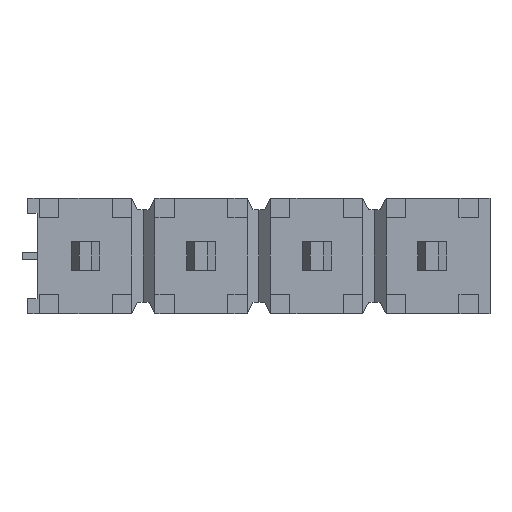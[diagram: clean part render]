
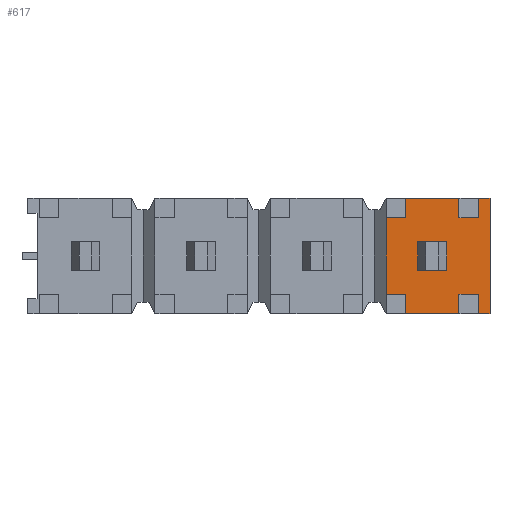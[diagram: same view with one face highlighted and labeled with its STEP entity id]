
A CAD part, front view. The second image highlights one B-rep face of the part: STEP entity #617.
In plain terms, the highlighted planar face has unit normal (0, -1, 0).
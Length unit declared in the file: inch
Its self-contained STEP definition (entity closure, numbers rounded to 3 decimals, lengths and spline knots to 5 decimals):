
#617 = ADVANCED_FACE( '', ( #1249, #1250 ), #1251, .T. );
#1249 = FACE_OUTER_BOUND( '', #1901, .T. );
#1250 = FACE_BOUND( '', #1902, .T. );
#1251 = PLANE( '', #1903 );
#1901 = EDGE_LOOP( '', ( #3571, #3572, #3573, #3574, #3575, #3576, #3577, #3578, #3579, #3580, #3581, #3582, #3583, #3584, #3585, #3586 ) );
#1902 = EDGE_LOOP( '', ( #3587, #3588, #3589, #3590 ) );
#1903 = AXIS2_PLACEMENT_3D( '', #3591, #3592, #3593 );
#3571 = ORIENTED_EDGE( '', *, *, #4415, .T. );
#3572 = ORIENTED_EDGE( '', *, *, #4543, .T. );
#3573 = ORIENTED_EDGE( '', *, *, #4460, .T. );
#3574 = ORIENTED_EDGE( '', *, *, #4306, .T. );
#3575 = ORIENTED_EDGE( '', *, *, #4142, .F. );
#3576 = ORIENTED_EDGE( '', *, *, #4542, .T. );
#3577 = ORIENTED_EDGE( '', *, *, #4589, .T. );
#3578 = ORIENTED_EDGE( '', *, *, #4590, .T. );
#3579 = ORIENTED_EDGE( '', *, *, #4304, .F. );
#3580 = ORIENTED_EDGE( '', *, *, #4504, .F. );
#3581 = ORIENTED_EDGE( '', *, *, #4118, .T. );
#3582 = ORIENTED_EDGE( '', *, *, #4554, .T. );
#3583 = ORIENTED_EDGE( '', *, *, #4467, .F. );
#3584 = ORIENTED_EDGE( '', *, *, #4263, .F. );
#3585 = ORIENTED_EDGE( '', *, *, #4486, .T. );
#3586 = ORIENTED_EDGE( '', *, *, #4553, .T. );
#3587 = ORIENTED_EDGE( '', *, *, #4038, .F. );
#3588 = ORIENTED_EDGE( '', *, *, #3935, .F. );
#3589 = ORIENTED_EDGE( '', *, *, #4084, .F. );
#3590 = ORIENTED_EDGE( '', *, *, #4567, .F. );
#3591 = CARTESIAN_POINT( '', ( 0.23637, 0.02, 0.1 ) );
#3592 = DIRECTION( '', ( 0., -1., 0. ) );
#3593 = DIRECTION( '', ( 0., 0., -1. ) );
#3935 = EDGE_CURVE( '', #4700, #4702, #4703, .T. );
#4038 = EDGE_CURVE( '', #4702, #4880, #4881, .T. );
#4084 = EDGE_CURVE( '', #4955, #4700, #4957, .T. );
#4118 = EDGE_CURVE( '', #5009, #5010, #5011, .T. );
#4142 = EDGE_CURVE( '', #5046, #5047, #5048, .T. );
#4263 = EDGE_CURVE( '', #5234, #5235, #5236, .T. );
#4304 = EDGE_CURVE( '', #5294, #5292, #5296, .T. );
#4306 = EDGE_CURVE( '', #5298, #5047, #5299, .T. );
#4415 = EDGE_CURVE( '', #5449, #5450, #5451, .T. );
#4460 = EDGE_CURVE( '', #5507, #5298, #5508, .T. );
#4467 = EDGE_CURVE( '', #5235, #5517, #5518, .T. );
#4486 = EDGE_CURVE( '', #5234, #5543, #5544, .T. );
#4504 = EDGE_CURVE( '', #5009, #5294, #5564, .T. );
#4542 = EDGE_CURVE( '', #5046, #5606, #5608, .T. );
#4543 = EDGE_CURVE( '', #5450, #5507, #5609, .T. );
#4553 = EDGE_CURVE( '', #5543, #5449, #5620, .T. );
#4554 = EDGE_CURVE( '', #5010, #5517, #5621, .T. );
#4567 = EDGE_CURVE( '', #4880, #4955, #5635, .T. );
#4589 = EDGE_CURVE( '', #5606, #5657, #5658, .T. );
#4590 = EDGE_CURVE( '', #5657, #5292, #5659, .T. );
#4700 = VERTEX_POINT( '', #5801 );
#4702 = VERTEX_POINT( '', #5804 );
#4703 = LINE( '', #5805, #5806 );
#4880 = VERTEX_POINT( '', #6065 );
#4881 = LINE( '', #6066, #6067 );
#4955 = VERTEX_POINT( '', #6177 );
#4957 = LINE( '', #6180, #6181 );
#5009 = VERTEX_POINT( '', #6258 );
#5010 = VERTEX_POINT( '', #6259 );
#5011 = LINE( '', #6260, #6261 );
#5046 = VERTEX_POINT( '', #6314 );
#5047 = VERTEX_POINT( '', #6315 );
#5048 = LINE( '', #6316, #6317 );
#5234 = VERTEX_POINT( '', #6595 );
#5235 = VERTEX_POINT( '', #6596 );
#5236 = LINE( '', #6597, #6598 );
#5292 = VERTEX_POINT( '', #6684 );
#5294 = VERTEX_POINT( '', #6687 );
#5296 = LINE( '', #6690, #6691 );
#5298 = VERTEX_POINT( '', #6693 );
#5299 = LINE( '', #6694, #6695 );
#5449 = VERTEX_POINT( '', #6922 );
#5450 = VERTEX_POINT( '', #6923 );
#5451 = LINE( '', #6924, #6925 );
#5507 = VERTEX_POINT( '', #7011 );
#5508 = LINE( '', #7012, #7013 );
#5517 = VERTEX_POINT( '', #7026 );
#5518 = LINE( '', #7027, #7028 );
#5543 = VERTEX_POINT( '', #7067 );
#5544 = LINE( '', #7068, #7069 );
#5564 = LINE( '', #7101, #7102 );
#5606 = VERTEX_POINT( '', #7168 );
#5608 = LINE( '', #7171, #7172 );
#5609 = LINE( '', #7173, #7174 );
#5620 = LINE( '', #7191, #7192 );
#5621 = LINE( '', #7193, #7194 );
#5635 = LINE( '', #7214, #7215 );
#5657 = VERTEX_POINT( '', #7243 );
#5658 = LINE( '', #7244, #7245 );
#5659 = LINE( '', #7246, #7247 );
#5801 = CARTESIAN_POINT( '', ( 0.1625, 0.02, 0.0125 ) );
#5804 = CARTESIAN_POINT( '', ( 0.1375, 0.02, 0.0125 ) );
#5805 = CARTESIAN_POINT( '', ( 0.1375, 0.02, 0.0125 ) );
#5806 = VECTOR( '', #7345, 39.37008 );
#6065 = CARTESIAN_POINT( '', ( 0.1375, 0.02, -0.0125 ) );
#6066 = CARTESIAN_POINT( '', ( 0.1375, 0.02, -0.0125 ) );
#6067 = VECTOR( '', #7428, 39.37008 );
#6177 = CARTESIAN_POINT( '', ( 0.1625, 0.02, -0.0125 ) );
#6180 = CARTESIAN_POINT( '', ( 0.1625, 0.02, 0.0125 ) );
#6181 = VECTOR( '', #7466, 39.37008 );
#6258 = CARTESIAN_POINT( '', ( 0.12688, 0.02, -0.033 ) );
#6259 = CARTESIAN_POINT( '', ( 0.12688, 0.02, -0.05 ) );
#6260 = CARTESIAN_POINT( '', ( 0.12688, 0.02, 0.1 ) );
#6261 = VECTOR( '', #7492, 39.37008 );
#6314 = CARTESIAN_POINT( '', ( 0.17312, 0.02, 0.05 ) );
#6315 = CARTESIAN_POINT( '', ( 0.17312, 0.02, 0.033 ) );
#6316 = CARTESIAN_POINT( '', ( 0.17312, 0.02, 0.1 ) );
#6317 = VECTOR( '', #7511, 39.37008 );
#6595 = CARTESIAN_POINT( '', ( 0.19012, 0.02, -0.033 ) );
#6596 = CARTESIAN_POINT( '', ( 0.17312, 0.02, -0.033 ) );
#6597 = CARTESIAN_POINT( '', ( 0.4, 0.02, -0.033 ) );
#6598 = VECTOR( '', #7604, 39.37008 );
#6684 = CARTESIAN_POINT( '', ( 0.11, 0.02, 0.033 ) );
#6687 = CARTESIAN_POINT( '', ( 0.11, 0.02, -0.033 ) );
#6690 = CARTESIAN_POINT( '', ( 0.11, 0.02, 0.4 ) );
#6691 = VECTOR( '', #7637, 39.37008 );
#6693 = CARTESIAN_POINT( '', ( 0.19012, 0.02, 0.033 ) );
#6694 = CARTESIAN_POINT( '', ( 0.4, 0.02, 0.033 ) );
#6695 = VECTOR( '', #7638, 39.37008 );
#6922 = CARTESIAN_POINT( '', ( 0.2, 0.02, -0.05 ) );
#6923 = CARTESIAN_POINT( '', ( 0.2, 0.02, 0.05 ) );
#6924 = CARTESIAN_POINT( '', ( 0.2, 0.02, 0.05 ) );
#6925 = VECTOR( '', #7716, 39.37008 );
#7011 = CARTESIAN_POINT( '', ( 0.19012, 0.02, 0.05 ) );
#7012 = CARTESIAN_POINT( '', ( 0.19012, 0.02, 0.1 ) );
#7013 = VECTOR( '', #7747, 39.37008 );
#7026 = CARTESIAN_POINT( '', ( 0.17312, 0.02, -0.05 ) );
#7027 = CARTESIAN_POINT( '', ( 0.17312, 0.02, 0.1 ) );
#7028 = VECTOR( '', #7752, 39.37008 );
#7067 = CARTESIAN_POINT( '', ( 0.19012, 0.02, -0.05 ) );
#7068 = CARTESIAN_POINT( '', ( 0.19012, 0.02, 0.1 ) );
#7069 = VECTOR( '', #7767, 39.37008 );
#7101 = CARTESIAN_POINT( '', ( 0.4, 0.02, -0.033 ) );
#7102 = VECTOR( '', #7780, 39.37008 );
#7168 = CARTESIAN_POINT( '', ( 0.12688, 0.02, 0.05 ) );
#7171 = CARTESIAN_POINT( '', ( -0.2, 0.02, 0.05 ) );
#7172 = VECTOR( '', #7806, 39.37008 );
#7173 = CARTESIAN_POINT( '', ( -0.2, 0.02, 0.05 ) );
#7174 = VECTOR( '', #7807, 39.37008 );
#7191 = CARTESIAN_POINT( '', ( 0.2, 0.02, -0.05 ) );
#7192 = VECTOR( '', #7814, 39.37008 );
#7193 = CARTESIAN_POINT( '', ( 0.2, 0.02, -0.05 ) );
#7194 = VECTOR( '', #7815, 39.37008 );
#7214 = CARTESIAN_POINT( '', ( 0.1625, 0.02, -0.0125 ) );
#7215 = VECTOR( '', #7822, 39.37008 );
#7243 = CARTESIAN_POINT( '', ( 0.12688, 0.02, 0.033 ) );
#7244 = CARTESIAN_POINT( '', ( 0.12688, 0.02, 0.1 ) );
#7245 = VECTOR( '', #7829, 39.37008 );
#7246 = CARTESIAN_POINT( '', ( 0.4, 0.02, 0.033 ) );
#7247 = VECTOR( '', #7830, 39.37008 );
#7345 = DIRECTION( '', ( -1., 0., 0. ) );
#7428 = DIRECTION( '', ( 0., 0., -1. ) );
#7466 = DIRECTION( '', ( 0., 0., 1. ) );
#7492 = DIRECTION( '', ( 0., 0., -1. ) );
#7511 = DIRECTION( '', ( 0., 0., -1. ) );
#7604 = DIRECTION( '', ( -1., 0., 0. ) );
#7637 = DIRECTION( '', ( 0., 0., 1. ) );
#7638 = DIRECTION( '', ( -1., 0., 0. ) );
#7716 = DIRECTION( '', ( 0., 0., 1. ) );
#7747 = DIRECTION( '', ( 0., 0., -1. ) );
#7752 = DIRECTION( '', ( 0., 0., -1. ) );
#7767 = DIRECTION( '', ( 0., 0., -1. ) );
#7780 = DIRECTION( '', ( -1., 0., 0. ) );
#7806 = DIRECTION( '', ( -1., 0., 0. ) );
#7807 = DIRECTION( '', ( -1., 0., 0. ) );
#7814 = DIRECTION( '', ( 1., 0., 0. ) );
#7815 = DIRECTION( '', ( 1., 0., 0. ) );
#7822 = DIRECTION( '', ( 1., 0., 0. ) );
#7829 = DIRECTION( '', ( 0., 0., -1. ) );
#7830 = DIRECTION( '', ( -1., 0., 0. ) );
